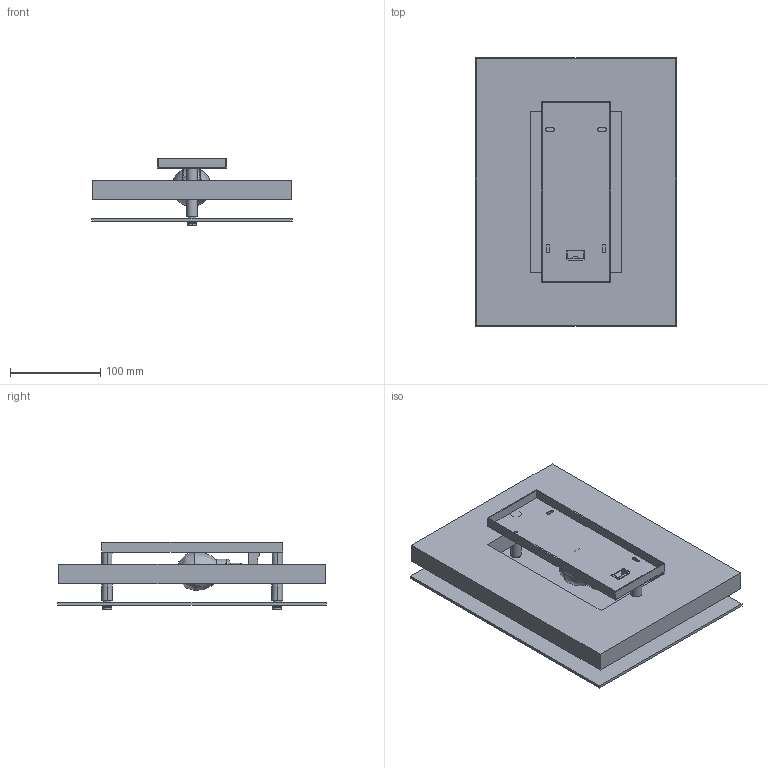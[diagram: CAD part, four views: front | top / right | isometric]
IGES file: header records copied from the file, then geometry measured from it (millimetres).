
Start section: SolidWorks IGES file using analytic representation for surfaces
Global section: file name: E:\3D lampy\Kyoto\Kyoto_3413\Kyoto_3413.IGS; native system: SolidWorks 2016; preprocessor: SolidWorks 2016; author: Asia; date: 170607.140349; units: millimetre
Bounding box: 222 x 297 x 74.84 mm (x, y, z)
Surface area: 329084.5 mm2 (no closed solid volume)
Topology: 0 solids, 0 shells, 440 faces, 7464 edges, 7460 vertices
Faces by surface type: revolution 271, bspline 169
